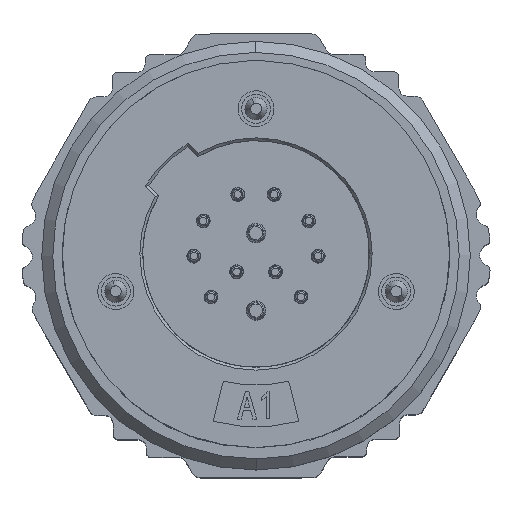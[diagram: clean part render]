
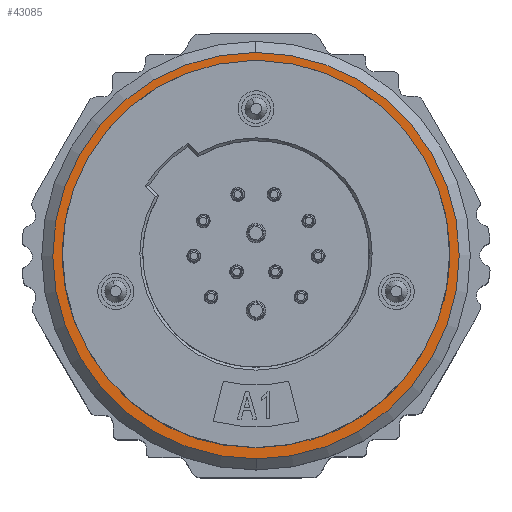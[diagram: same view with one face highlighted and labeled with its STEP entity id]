
A CAD part, top view. The second image highlights one B-rep face of the part: STEP entity #43085.
In plain terms, the highlighted planar face has unit normal (0, 0, 1).
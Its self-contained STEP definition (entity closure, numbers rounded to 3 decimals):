
#3252 = DIRECTION ( 'NONE',  ( -0.003, 1., 0. ) ) ;
#5688 = EDGE_CURVE ( 'NONE', #10344, #69290, #115537, .T. ) ;
#10344 = VERTEX_POINT ( 'NONE', #32712 ) ;
#11856 = CARTESIAN_POINT ( 'NONE',  ( 0., 0., -26.7 ) ) ;
#12985 = VERTEX_POINT ( 'NONE', #90869 ) ;
#13205 = EDGE_CURVE ( 'NONE', #69290, #10344, #25349, .T. ) ;
#14839 = CARTESIAN_POINT ( 'NONE',  ( 0.015, -5.35, -26.7 ) ) ;
#20285 = EDGE_LOOP ( 'NONE', ( #29156, #48987 ) ) ;
#23321 = CARTESIAN_POINT ( 'NONE',  ( 0., 0., -26.7 ) ) ;
#23963 = VERTEX_POINT ( 'NONE', #14839 ) ;
#25349 = CIRCLE ( 'NONE', #63199, 7.35 ) ;
#29156 = ORIENTED_EDGE ( 'NONE', *, *, #94937, .T. ) ;
#31081 = DIRECTION ( 'NONE',  ( 0., 0., -1. ) ) ;
#31434 = AXIS2_PLACEMENT_3D ( 'NONE', #55442, #37881, #75438 ) ;
#31640 = DIRECTION ( 'NONE',  ( 0.003, -1., 0. ) ) ;
#32658 = PLANE ( 'NONE',  #81665 ) ;
#32712 = CARTESIAN_POINT ( 'NONE',  ( -0.02, 7.35, -26.7 ) ) ;
#37881 = DIRECTION ( 'NONE',  ( 0., 0., -1. ) ) ;
#41242 = DIRECTION ( 'NONE',  ( 0., 0., 1. ) ) ;
#43085 = ADVANCED_FACE ( 'NONE', ( #114704, #107334 ), #32658, .T. ) ;
#43111 = ORIENTED_EDGE ( 'NONE', *, *, #5688, .T. ) ;
#48987 = ORIENTED_EDGE ( 'NONE', *, *, #72295, .T. ) ;
#49735 = DIRECTION ( 'NONE',  ( 0.003, -1., 0. ) ) ;
#50748 = CARTESIAN_POINT ( 'NONE',  ( 0., 0., -26.7 ) ) ;
#51560 = DIRECTION ( 'NONE',  ( 0., 0., 1. ) ) ;
#52411 = CIRCLE ( 'NONE', #31434, 5.35 ) ;
#55442 = CARTESIAN_POINT ( 'NONE',  ( 0., 0., -26.7 ) ) ;
#55545 = CARTESIAN_POINT ( 'NONE',  ( 0.02, -7.35, -26.7 ) ) ;
#62035 = EDGE_LOOP ( 'NONE', ( #43111, #116655 ) ) ;
#62467 = CARTESIAN_POINT ( 'NONE',  ( 0., 0., -26.7 ) ) ;
#63199 = AXIS2_PLACEMENT_3D ( 'NONE', #62467, #116376, #49735 ) ;
#69290 = VERTEX_POINT ( 'NONE', #55545 ) ;
#72295 = EDGE_CURVE ( 'NONE', #12985, #23963, #52411, .T. ) ;
#75438 = DIRECTION ( 'NONE',  ( 0.003, -1., 0. ) ) ;
#81665 = AXIS2_PLACEMENT_3D ( 'NONE', #23321, #41242, #3252 ) ;
#90869 = CARTESIAN_POINT ( 'NONE',  ( -0.015, 5.35, -26.7 ) ) ;
#94254 = CIRCLE ( 'NONE', #102147, 5.35 ) ;
#94937 = EDGE_CURVE ( 'NONE', #23963, #12985, #94254, .T. ) ;
#96412 = DIRECTION ( 'NONE',  ( 0.003, -1., 0. ) ) ;
#102147 = AXIS2_PLACEMENT_3D ( 'NONE', #11856, #31081, #96412 ) ;
#107334 = FACE_BOUND ( 'NONE', #20285, .T. ) ;
#114704 = FACE_OUTER_BOUND ( 'NONE', #62035, .T. ) ;
#115537 = CIRCLE ( 'NONE', #115638, 7.35 ) ;
#115638 = AXIS2_PLACEMENT_3D ( 'NONE', #50748, #51560, #31640 ) ;
#116376 = DIRECTION ( 'NONE',  ( 0., 0., 1. ) ) ;
#116655 = ORIENTED_EDGE ( 'NONE', *, *, #13205, .T. ) ;
